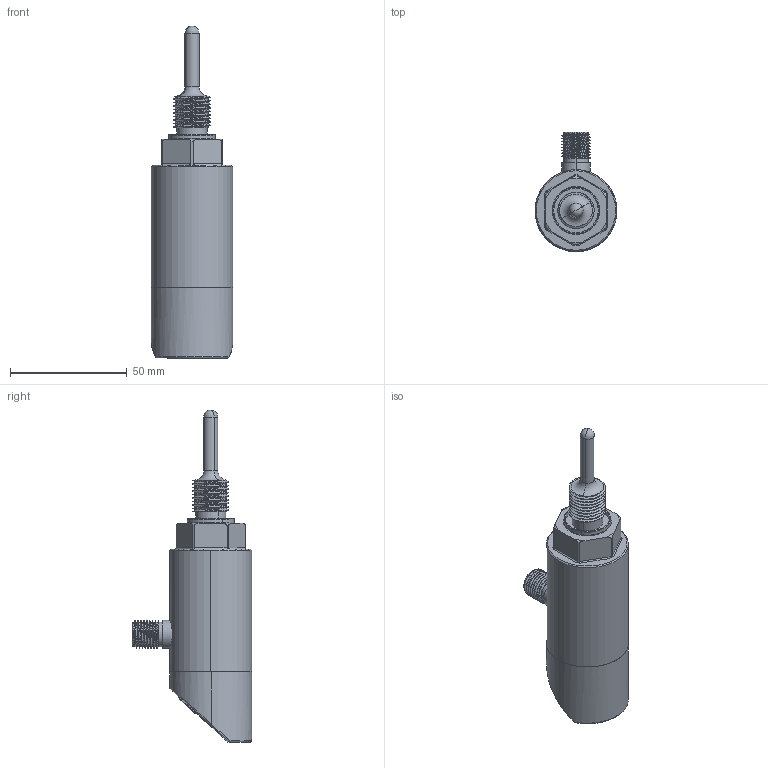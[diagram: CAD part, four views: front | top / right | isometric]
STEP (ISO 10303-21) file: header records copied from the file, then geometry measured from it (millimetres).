
FILE_DESCRIPTION (( 'STEP AP214' ), '1' );
FILE_NAME ('BTD2X51.STEP', '2024-12-03T03:40:28', ( '' ), ( '' ), 'SwSTEP 2.0', 'SolidWorks 2022', '' );
FILE_SCHEMA (( 'AUTOMOTIVE_DESIGN' ));
Length unit declared in the file: millimetre
Products named in the file (8): BTD2X51; 探杆.STEP; ^BTD2X52.STEP_BTD2X52(2)_BTD2X52.STEP; BTD2X52(2)^BTD2X52.STEP; BTD2X51.STEP; 复件 (3) ^_BTD2X52.STEP_BTD2X52(2)_BTD2X52.STEP; BTD2X52.STEP^BTD2X52(2)_BTD2X52.STEP; ^_BTD2X52.STEP_BTD2X52(2)_BTD2X52.STEP
Assembly tree (7 placements, depth 6):
  BTD2X51
    BTD2X51.STEP
      BTD2X52(2)^BTD2X52.STEP
        BTD2X52.STEP^BTD2X52(2)_BTD2X52.STEP
          ^BTD2X52.STEP_BTD2X52(2)_BTD2X52.STEP
            ^_BTD2X52.STEP_BTD2X52(2)_BTD2X52.STEP
            复件 (3) ^_BTD2X52.STEP_BTD2X52(2)_BTD2X52.STEP
      探杆.STEP
Bounding box: 35 x 51 x 142 mm (x, y, z)
Volume: 83376.1 mm3; surface area: 18238.7 mm2
Topology: 3 solids, 3 shells, 172 faces, 419 edges, 264 vertices
Faces by surface type: cylinder 91, plane 49, sphere 13, torus 9, bspline 8, cone 2
Entity records: 10650 total; most frequent: CARTESIAN_POINT 6150, ORIENTED_EDGE 800, DIRECTION 743, EDGE_CURVE 400, AXIS2_PLACEMENT_3D 291, VERTEX_POINT 255, EDGE_LOOP 193, FACE_OUTER_BOUND 172
